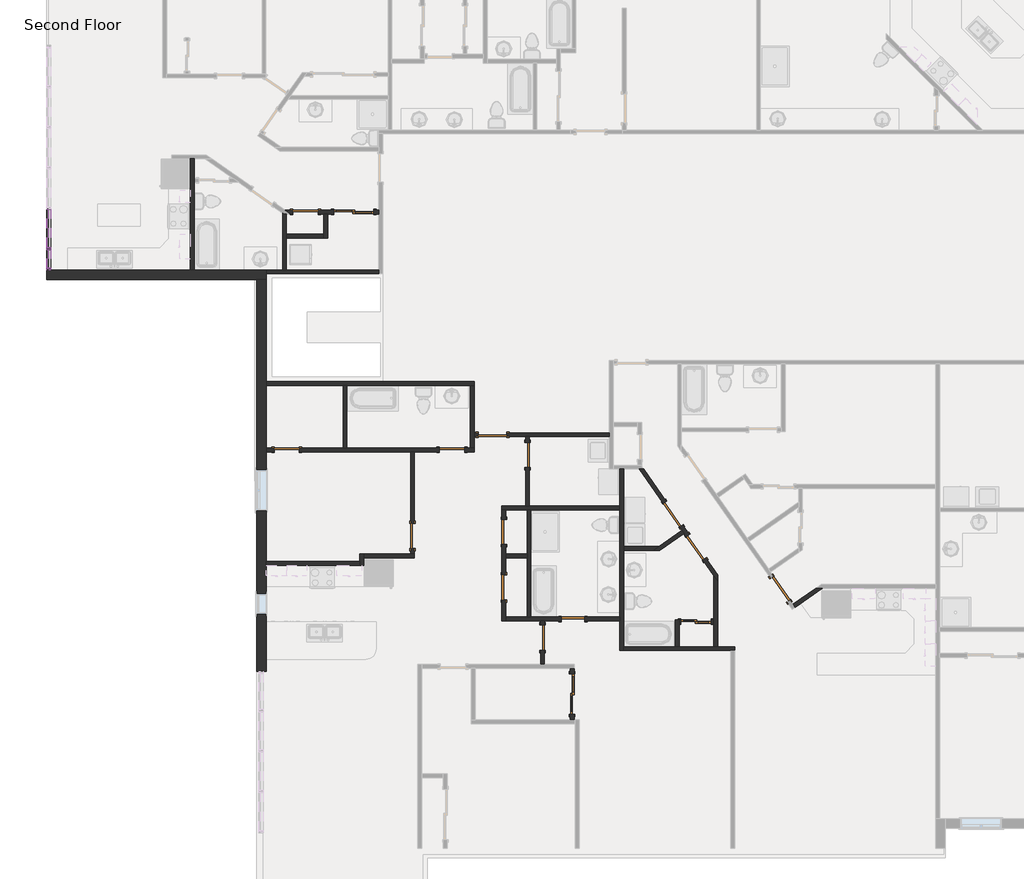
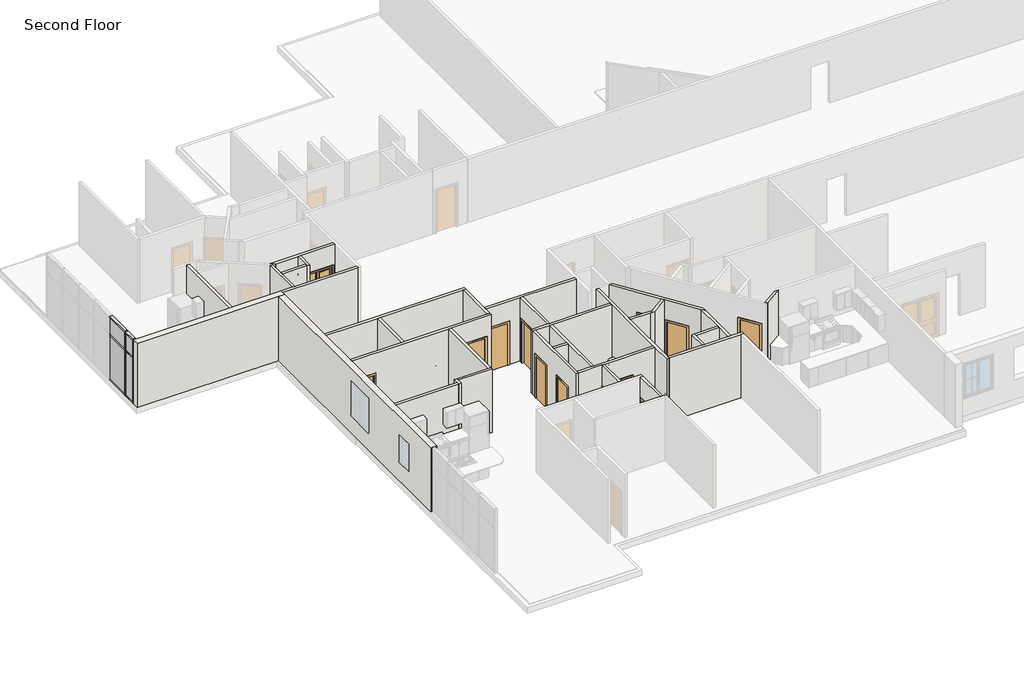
# One storey, part 2 of 17: 34 walls, 16 doors, 10 members, 4 plates.
"""IFC4 building model written with IfcOpenShell, lengths in millimetres."""

from ifc_helpers import new_model, si_unit, frame, origin, place, context, project, spatial, polyline, outline, extrude, faceted_brep, transform, mapped, element, save
from components import door_2d0eeab4, door_d8f5dbb5, door_f2b275c1, door_825b8444, door_c29894e6, door_88c23cd7, door_900f836f, rectangular_mullion_rectangular_mullion_1_fa3625a1, rectangular_mullion_rectangular_mullion_1_7cbf0b94, rectangular_mullion_rectangular_mullion_1_6186cc23, rectangular_mullion_rectangular_mullion_1_049a2e78, rectangular_mullion_rectangular_mullion_1_a50b3cda, rectangular_mullion_rectangular_mullion_1_5cd4c5ac, rectangular_mullion_rectangular_mullion_1_5f94ee87, rectangular_mullion_rectangular_mullion_1_01ab8f87, system_panel_glazed_0ed27d1d, system_panel_glazed_134bacdb, system_panel_glazed_08691960, system_panel_glazed_359e7c1e

model = new_model("IFC4")

# Units and contexts
model_context = context("Model", 3, world=origin())
ifc_project = project(units=[si_unit("LENGTHUNIT", "METRE", prefix="MILLI")], contexts=[model_context])

# Site, building, storey
site = spatial("IfcSite", under=ifc_project)
building = spatial("IfcBuilding", under=site)
storey = spatial("IfcBuildingStorey", under=building, Name="Second Floor", Elevation=3048.0)

# Doors
placement = place(None, origin())
door_shape = door_2d0eeab4(model_context)
element("IfcDoor", 1, ObjectType="Single-Flush : 28\" x 80\"", at=placement, inside=storey, context=model_context, shape_type="MappedRepresentation", body=[
    mapped(door_shape, transform((16422.928371, -12394.3493344, 3048.0), x_axis=(-1.0, 0.0, 0.0), y_axis=(0.0, -1.0, 0.0), z_axis=(0.0, 0.0, 1.0))),
])
door_2_shape = door_d8f5dbb5(model_context)
element("IfcDoor", 2, ObjectType="Single-Flush : 30\" x 80\"", at=placement, inside=storey, context=model_context, shape_type="MappedRepresentation", body=[
    mapped(door_2_shape, transform((12779.9561509, -7293.7212391, 3048.0), x_axis=(1.0, 0.0, 0.0), y_axis=(0.0, 1.0, 0.0), z_axis=(0.0, 0.0, 1.0))),
])
element("IfcDoor", 3, ObjectType="Single-Flush : 30\" x 80\"", at=placement, inside=storey, context=model_context, shape_type="MappedRepresentation", body=[
    mapped(door_2_shape, transform((14339.6754984, -9769.6379528, 3048.0), x_axis=(0.0, 1.0, 0.0), y_axis=(-1.0, 0.0, 0.0), z_axis=(0.0, 0.0, 1.0))),
])
door_3_shape = door_f2b275c1(model_context)
element("IfcDoor", 4, ObjectType="Single-Flush : 30\" x 80\"", at=placement, inside=storey, context=model_context, shape_type="MappedRepresentation", body=[
    mapped(door_3_shape, transform((8359.613642, -116.1297775, 3048.0), x_axis=(-1.0, 0.0, 0.0), y_axis=(0.0, -1.0, 0.0), z_axis=(0.0, 0.0, 1.0))),
])
element("IfcDoor", 5, ObjectType="Single-Flush : 30\" x 80\"", at=placement, inside=storey, context=model_context, shape_type="MappedRepresentation", body=[
    mapped(door_3_shape, transform((15056.22709, -7446.1212391, 3048.0), x_axis=(0.0, 1.0, 0.0), y_axis=(-1.0, 0.0, 0.0), z_axis=(0.0, 0.0, 1.0))),
])
element("IfcDoor", 6, ObjectType="Single-Flush : 30\" x 80\"", at=placement, inside=storey, context=model_context, shape_type="MappedRepresentation", body=[
    mapped(door_3_shape, transform((11582.8058728, -9888.1265712, 3048.0), x_axis=(0.0, -1.0, 0.0), y_axis=(1.0, 0.0, 0.0), z_axis=(0.0, 0.0, 1.0))),
])
element("IfcDoor", 7, ObjectType="Single-Flush : 30\" x 80\"", at=placement, inside=storey, context=model_context, shape_type="MappedRepresentation", body=[
    mapped(door_3_shape, transform((7791.0581159, -7293.7212391, 3048.0), x_axis=(-1.0, 0.0, 0.0), y_axis=(0.0, -1.0, 0.0), z_axis=(0.0, 0.0, 1.0))),
])
element("IfcDoor", 8, ObjectType="Single-Flush : 30\" x 80\"", at=placement, inside=storey, context=model_context, shape_type="MappedRepresentation", body=[
    mapped(door_3_shape, transform((14339.6754984, -11446.0379528, 3048.0), x_axis=(0.0, -1.0, 0.0), y_axis=(1.0, 0.0, 0.0), z_axis=(0.0, 0.0, 1.0))),
])
element("IfcDoor", 9, ObjectType="Single-Flush : 30\" x 80\"", at=placement, inside=storey, context=model_context, shape_type="MappedRepresentation", body=[
    mapped(door_3_shape, transform((15508.528371, -12959.3282576, 3048.0), x_axis=(0.0, 1.0, 0.0), y_axis=(-1.0, 0.0, 0.0), z_axis=(0.0, 0.0, 1.0))),
])
door_4_shape = door_825b8444(model_context)
element("IfcDoor", 10, ObjectType="Single-Flush : 34\" x 80\"", at=placement, inside=storey, context=model_context, shape_type="MappedRepresentation", body=[
    mapped(door_4_shape, transform((19441.5762048, -9236.3622072, 3048.0), x_axis=(0.573576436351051, -0.8191520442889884, 0.0), y_axis=(0.8191520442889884, 0.573576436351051, 0.0), z_axis=(0.0, 0.0, 1.0))),
])
door_5_shape = door_c29894e6(model_context)
element("IfcDoor", 11, ObjectType="Single-Flush : 34\" x 80\"", at=placement, inside=storey, context=model_context, shape_type="MappedRepresentation", body=[
    mapped(door_5_shape, transform((22679.8832205, -11498.1076976, 3048.0), x_axis=(0.5735764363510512, -0.8191520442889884, 0.0), y_axis=(0.8191520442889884, 0.5735764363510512, 0.0), z_axis=(0.0, 0.0, 1.0))),
])
element("IfcDoor", 12, ObjectType="Single-Flush : 34\" x 80\"", at=placement, inside=storey, context=model_context, shape_type="MappedRepresentation", body=[
    mapped(door_5_shape, transform((20140.880596, -10235.0723796, 3048.0), x_axis=(-0.573576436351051, 0.8191520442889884, 0.0), y_axis=(-0.8191520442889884, -0.573576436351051, 0.0), z_axis=(0.0, 0.0, 1.0))),
])
element("IfcDoor", 13, ObjectType="Single-Flush : 34\" x 80\"", at=placement, inside=storey, context=model_context, shape_type="MappedRepresentation", body=[
    mapped(door_5_shape, transform((13999.1561509, -6836.5212391, 3048.0), x_axis=(-1.0, 0.0, 0.0), y_axis=(0.0, -1.0, 0.0), z_axis=(0.0, 0.0, 1.0))),
])
door_6_shape = door_88c23cd7(model_context)
element("IfcDoor", 14, ObjectType="Sliding-Closet : 36\" x 80\"", at=placement, inside=storey, context=model_context, shape_type="MappedRepresentation", body=[
    mapped(door_6_shape, transform((20139.3524328, -12607.5204597, 3048.0), x_axis=(1.0, 0.0, 0.0), y_axis=(0.0, 1.0, 0.0), z_axis=(0.0, 0.0, 1.0))),
])
door_7_shape = door_900f836f(model_context)
element("IfcDoor", 15, ObjectType="Sliding-Closet : 48\" x 80\"", at=placement, inside=storey, context=model_context, shape_type="MappedRepresentation", body=[
    mapped(door_7_shape, transform((9813.633999, -243.1297775, 3048.0), x_axis=(1.0, 0.0, 0.0), y_axis=(0.0, 1.0, 0.0), z_axis=(0.0, 0.0, 1.0))),
])
element("IfcDoor", 16, ObjectType="Sliding-Closet : 48\" x 80\"", at=placement, inside=storey, context=model_context, shape_type="MappedRepresentation", body=[
    mapped(door_7_shape, transform((16274.860372, -14663.3427377, 3048.0), x_axis=(0.0, -1.0, 0.0), y_axis=(1.0, 0.0, 0.0), z_axis=(0.0, 0.0, 1.0))),
])

# Members
rectangular_mullion_rectangular_mullion_1_shape = rectangular_mullion_rectangular_mullion_1_fa3625a1(model_context)
element("IfcMember", 17, ObjectType="Rectangular Mullion : Rectangular Mullion 1", at=placement, inside=storey, context=model_context, shape_type="MappedRepresentation", body=[
    mapped(rectangular_mullion_rectangular_mullion_1_shape, transform((612.3831159, -1182.2572154, 6096.0), x_axis=(0.0, 0.0, 1.0), y_axis=(-1.0, 0.0, 0.0), z_axis=(0.0, -1.0, 0.0))),
])
element("IfcMember", 18, ObjectType="Rectangular Mullion : Rectangular Mullion 1", at=placement, inside=storey, context=model_context, shape_type="MappedRepresentation", body=[
    mapped(rectangular_mullion_rectangular_mullion_1_shape, transform((612.3831159, -26.5572154, 3048.0), x_axis=(0.0, 0.0, -1.0), y_axis=(-1.0, 0.0, 0.0), z_axis=(0.0, 1.0, 0.0))),
])
rectangular_mullion_rectangular_mullion_1_2_shape = rectangular_mullion_rectangular_mullion_1_7cbf0b94(model_context)
element("IfcMember", 19, ObjectType="Rectangular Mullion : Rectangular Mullion 1", at=placement, inside=storey, context=model_context, shape_type="MappedRepresentation", body=[
    mapped(rectangular_mullion_rectangular_mullion_1_2_shape, transform((612.3831159, -1182.2572154, 5213.35), x_axis=(0.0, 0.0, 1.0), y_axis=(-1.0, 0.0, 0.0), z_axis=(0.0, -1.0, 0.0))),
])
rectangular_mullion_rectangular_mullion_1_3_shape = rectangular_mullion_rectangular_mullion_1_6186cc23(model_context)
element("IfcMember", 20, ObjectType="Rectangular Mullion : Rectangular Mullion 1", at=placement, inside=storey, context=model_context, shape_type="MappedRepresentation", body=[
    mapped(rectangular_mullion_rectangular_mullion_1_3_shape, transform((612.3831159, -1214.0072154, 3048.0), x_axis=(0.0, -1.0, 0.0), y_axis=(-1.0, 0.0, 0.0), z_axis=(0.0, 0.0, -1.0))),
])
rectangular_mullion_rectangular_mullion_1_4_shape = rectangular_mullion_rectangular_mullion_1_049a2e78(model_context)
element("IfcMember", 21, ObjectType="Rectangular Mullion : Rectangular Mullion 1", at=placement, inside=storey, context=model_context, shape_type="MappedRepresentation", body=[
    mapped(rectangular_mullion_rectangular_mullion_1_4_shape, transform((612.3831159, -1214.0072154, 5213.35), x_axis=(0.0, -1.0, 0.0), y_axis=(-1.0, 0.0, 0.0), z_axis=(0.0, 0.0, -1.0))),
])
rectangular_mullion_rectangular_mullion_1_5_shape = rectangular_mullion_rectangular_mullion_1_a50b3cda(model_context)
element("IfcMember", 22, ObjectType="Rectangular Mullion : Rectangular Mullion 1", at=placement, inside=storey, context=model_context, shape_type="MappedRepresentation", body=[
    mapped(rectangular_mullion_rectangular_mullion_1_5_shape, transform((612.3831159, -1864.031369, 3048.0), x_axis=(0.0, -1.0, 0.0), y_axis=(-1.0, 0.0, 0.0), z_axis=(0.0, 0.0, -1.0))),
])
rectangular_mullion_rectangular_mullion_1_6_shape = rectangular_mullion_rectangular_mullion_1_5cd4c5ac(model_context)
element("IfcMember", 23, ObjectType="Rectangular Mullion : Rectangular Mullion 1", at=placement, inside=storey, context=model_context, shape_type="MappedRepresentation", body=[
    mapped(rectangular_mullion_rectangular_mullion_1_6_shape, transform((612.3831159, -1864.031369, 5213.35), x_axis=(0.0, -1.0, 0.0), y_axis=(-1.0, 0.0, 0.0), z_axis=(0.0, 0.0, -1.0))),
])
rectangular_mullion_rectangular_mullion_1_7_shape = rectangular_mullion_rectangular_mullion_1_5f94ee87(model_context)
element("IfcMember", 24, ObjectType="Rectangular Mullion : Rectangular Mullion 1", at=placement, inside=storey, context=model_context, shape_type="MappedRepresentation", body=[
    mapped(rectangular_mullion_rectangular_mullion_1_7_shape, transform((612.3831159, -1800.531369, 6096.0), x_axis=(0.0, 0.0, 1.0), y_axis=(-1.0, 0.0, 0.0), z_axis=(0.0, -1.0, 0.0))),
])
element("IfcMember", 25, ObjectType="Rectangular Mullion : Rectangular Mullion 1", at=placement, inside=storey, context=model_context, shape_type="MappedRepresentation", body=[
    mapped(rectangular_mullion_rectangular_mullion_1_7_shape, transform((612.3831159, -1245.7572154, 3048.0), x_axis=(0.0, 0.0, -1.0), y_axis=(-1.0, 0.0, 0.0), z_axis=(0.0, 1.0, 0.0))),
])
rectangular_mullion_rectangular_mullion_1_8_shape = rectangular_mullion_rectangular_mullion_1_01ab8f87(model_context)
element("IfcMember", 26, ObjectType="Rectangular Mullion : Rectangular Mullion 1", at=placement, inside=storey, context=model_context, shape_type="MappedRepresentation", body=[
    mapped(rectangular_mullion_rectangular_mullion_1_8_shape, transform((612.3831159, -1800.531369, 5213.35), x_axis=(0.0, 0.0, 1.0), y_axis=(-1.0, 0.0, 0.0), z_axis=(0.0, -1.0, 0.0))),
])

# Plates
system_panel_glazed_shape = system_panel_glazed_0ed27d1d(model_context)
element("IfcPlate", 27, ObjectType="System Panel : Glazed", at=placement, inside=storey, context=model_context, shape_type="MappedRepresentation", body=[
    mapped(system_panel_glazed_shape, transform((612.3831159, -604.4072154, 3111.5), x_axis=(0.0, -1.0, 0.0), y_axis=(1.0, 0.0, 0.0), z_axis=(0.0, 0.0, 1.0))),
])
system_panel_glazed_2_shape = system_panel_glazed_134bacdb(model_context)
element("IfcPlate", 28, ObjectType="System Panel : Glazed", at=placement, inside=storey, context=model_context, shape_type="MappedRepresentation", body=[
    mapped(system_panel_glazed_2_shape, transform((612.3831159, -604.4072154, 5245.1), x_axis=(0.0, -1.0, 0.0), y_axis=(1.0, 0.0, 0.0), z_axis=(0.0, 0.0, 1.0))),
])
system_panel_glazed_3_shape = system_panel_glazed_08691960(model_context)
element("IfcPlate", 29, ObjectType="System Panel : Glazed", at=placement, inside=storey, context=model_context, shape_type="MappedRepresentation", body=[
    mapped(system_panel_glazed_3_shape, transform((612.3831159, -1523.1442922, 3111.5), x_axis=(0.0, -1.0, 0.0), y_axis=(1.0, 0.0, 0.0), z_axis=(0.0, 0.0, 1.0))),
])
system_panel_glazed_4_shape = system_panel_glazed_359e7c1e(model_context)
element("IfcPlate", 30, ObjectType="System Panel : Glazed", at=placement, inside=storey, context=model_context, shape_type="MappedRepresentation", body=[
    mapped(system_panel_glazed_4_shape, transform((612.3831159, -1523.1442922, 5245.1), x_axis=(0.0, -1.0, 0.0), y_axis=(1.0, 0.0, 0.0), z_axis=(0.0, 0.0, 1.0))),
])

# Walls
element("IfcWall", 31, ObjectType="Exterior - Brick on Wood Stud", at=placement, inside=storey, context=model_context, shape_type="Brep", body=[
    faceted_brep([(7170.3456159, -13981.3871067, 3048.0), (7170.3456159, -10775.0993344, 3048.0), (7170.3456159, -10660.7993344, 3048.0), (7170.3456159, -7350.8712391, 3048.0), (7170.3456159, -7236.5712391, 3048.0), (7170.3456159, -5351.7371067, 3048.0), (7170.3456159, -5237.4371067, 3048.0), (7170.3456159, -2146.606369, 3048.0), (7170.3456159, -2146.606369, 6096.0), (7170.3456159, -5237.4371067, 6096.0), (7170.3456159, -5351.7371067, 6096.0), (7170.3456159, -7236.5712391, 6096.0), (7170.3456159, -7350.8712391, 6096.0), (7170.3456159, -10660.7993344, 6096.0), (7170.3456159, -10775.0993344, 6096.0), (7170.3456159, -13981.3871067, 6096.0), (7170.3456159, -7903.3212391, 5486.4), (7170.3456159, -7903.3212391, 3962.4), (7170.3456159, -9122.5212391, 3962.4), (7170.3456159, -9122.5212391, 5486.4), (7170.3456159, -11632.3493344, 5181.6), (7170.3456159, -11632.3493344, 3962.4), (7170.3456159, -12241.9493344, 3962.4), (7170.3456159, -12241.9493344, 5181.6), (6887.7706159, -13981.3871067, 3048.0), (6887.7706159, -13981.3871067, 6096.0), (6887.7706159, -2146.606369, 6096.0), (6887.7706159, -2146.606369, 3048.0), (6887.7706159, -7903.3212391, 5486.4), (6887.7706159, -9122.5212391, 5486.4), (6887.7706159, -9122.5212391, 3962.4), (6887.7706159, -7903.3212391, 3962.4), (6887.7706159, -11632.3493344, 5181.6), (6887.7706159, -12241.9493344, 5181.6), (6887.7706159, -12241.9493344, 3962.4), (6887.7706159, -11632.3493344, 3962.4)], [[[0, 1, 2, 3, 4, 5, 6, 7, 8, 9, 10, 11, 12, 13, 14, 15], [16, 17, 18, 19], [20, 21, 22, 23]], [[24, 25, 26, 27], [28, 29, 30, 31], [32, 33, 34, 35]], [[7, 6, 5, 4, 3, 2, 1, 0, 24, 27]], [[15, 14, 13, 12, 11, 10, 9, 8, 26, 25]], [[0, 15, 25, 24]], [[17, 16, 28, 31]], [[18, 17, 31, 30]], [[19, 18, 30, 29]], [[16, 19, 29, 28]], [[21, 20, 32, 35]], [[22, 21, 35, 34]], [[23, 22, 34, 33]], [[20, 23, 33, 32]], [[8, 7, 27, 26]]]),
])
element("IfcWall", 32, ObjectType="Exterior - Brick on Wood Stud", at=placement, inside=storey, context=model_context, shape_type="Brep", body=[
    faceted_brep([(548.8831159, -2146.606369, 3048.0), (6887.7706159, -2146.606369, 3048.0), (7170.3456159, -2146.606369, 3048.0), (7170.3456159, -2146.606369, 6096.0), (6887.7706159, -2146.606369, 6096.0), (548.8831159, -2146.606369, 6096.0), (548.8831159, -1864.031369, 3048.0), (548.8831159, -1864.031369, 6096.0), (4880.7003923, -1864.031369, 6096.0), (4995.0003923, -1864.031369, 6096.0), (7170.3456159, -1864.031369, 6096.0), (7170.3456159, -1864.031369, 3048.0), (4995.0003923, -1864.031369, 3048.0), (4880.7003923, -1864.031369, 3048.0), (7170.3456159, -1978.331369, 3048.0), (7170.3456159, -1978.331369, 6096.0)], [[[0, 1, 2, 3, 4, 5]], [[6, 7, 8, 9, 10, 11, 12, 13]], [[2, 1, 0, 6, 13, 12, 11, 14]], [[5, 4, 3, 15, 10, 9, 8, 7]], [[0, 5, 7, 6]], [[3, 2, 14, 11, 10, 15]]]),
])
element("IfcWall", 33, ObjectType="Interior - 4 1/2\" Partition", at=placement, inside=storey, context=model_context, shape_type="Brep", body=[
    faceted_brep([(4995.0003923, -1864.031369, 3048.0), (4995.0003923, 782.2685137, 3048.0), (4995.0003923, 896.5685137, 3048.0), (4995.0003923, 1493.4685137, 3048.0), (4995.0003923, 1493.4685137, 6096.0), (4995.0003923, 896.5685137, 6096.0), (4995.0003923, 782.2685137, 6096.0), (4995.0003923, -1864.031369, 6096.0), (4880.7003923, -1864.031369, 3048.0), (4880.7003923, -1864.031369, 6096.0), (4880.7003923, 1493.4685137, 6096.0), (4880.7003923, 1493.4685137, 3048.0)], [[[0, 1, 2, 3, 4, 5, 6, 7]], [[8, 9, 10, 11]], [[3, 2, 1, 0, 8, 11]], [[7, 6, 5, 4, 10, 9]], [[0, 7, 9, 8]], [[4, 3, 11, 10]]]),
])
element("IfcWall", 34, ObjectType="Interior - 4 1/2\" Partition", at=placement, inside=storey, context=model_context, shape_type="Brep", body=[
    faceted_brep([(10569.283999, -173.2797775, 6096.0), (9026.363642, -173.2797775, 6096.0), (8912.063642, -173.2797775, 6096.0), (7905.870285, -173.2797775, 6096.0), (7905.870285, -173.2797775, 3048.0), (7978.613642, -173.2797775, 3048.0), (7978.613642, -173.2797775, 5080.0), (8740.613642, -173.2797775, 5080.0), (8740.613642, -173.2797775, 3048.0), (8912.063642, -173.2797775, 3048.0), (9026.363642, -173.2797775, 3048.0), (9204.033999, -173.2797775, 3048.0), (9204.033999, -173.2797775, 5080.0), (10423.233999, -173.2797775, 5080.0), (10423.233999, -173.2797775, 3048.0), (10569.283999, -173.2797775, 3048.0), (7742.6329678, -58.9797775, 6096.0), (10569.283999, -58.9797775, 6096.0), (10569.283999, -58.9797775, 3048.0), (10423.233999, -58.9797775, 3048.0), (10423.233999, -58.9797775, 5080.0), (9204.033999, -58.9797775, 5080.0), (9204.033999, -58.9797775, 3048.0), (8740.613642, -58.9797775, 3048.0), (8740.613642, -58.9797775, 5080.0), (7978.613642, -58.9797775, 5080.0), (7978.613642, -58.9797775, 3048.0), (7742.6329678, -58.9797775, 3048.0)], [[[0, 1, 2, 3, 4, 5, 6, 7, 8, 9, 10, 11, 12, 13, 14, 15]], [[16, 17, 18, 19, 20, 21, 22, 23, 24, 25, 26, 27]], [[26, 5, 4, 27]], [[8, 23, 22, 11, 10, 9]], [[18, 15, 14, 19]], [[3, 2, 1, 0, 17, 16]], [[6, 5, 26, 25]], [[7, 6, 25, 24]], [[8, 7, 24, 23]], [[21, 12, 11, 22]], [[12, 21, 20, 13]], [[13, 20, 19, 14]], [[4, 3, 16, 27]], [[0, 15, 18, 17]]]),
])
element("IfcWall", 35, ObjectType="Interior - 4 1/2\" Partition", at=placement, inside=storey, context=model_context, shape_type="Brep", body=[
    faceted_brep([(7667.463642, -145.8801844, 3048.0), (7667.463642, -1864.031369, 3048.0), (7667.463642, -1864.031369, 6096.0), (7667.463642, -145.8801844, 6096.0), (7781.763642, -173.2797775, 3048.0), (7781.763642, -173.2797775, 6096.0), (7781.763642, -783.946226, 6096.0), (7781.763642, -898.246226, 6096.0), (7781.763642, -1864.031369, 6096.0), (7781.763642, -1864.031369, 3048.0), (7781.763642, -898.246226, 3048.0), (7781.763642, -783.946226, 3048.0), (7706.5943163, -173.2797775, 3048.0), (7706.5943163, -173.2797775, 6096.0)], [[[0, 1, 2, 3]], [[4, 5, 6, 7, 8, 9, 10, 11]], [[1, 0, 12, 4, 11, 10, 9]], [[3, 2, 8, 7, 6, 5, 13]], [[2, 1, 9, 8]], [[0, 3, 13, 12]], [[13, 5, 4, 12]]]),
])
element("IfcWall", 36, ObjectType="Interior - 4 1/2\" Partition", at=placement, inside=storey, context=model_context, shape_type="Brep", body=[
    faceted_brep([(8912.063642, -173.2797775, 3048.0), (8912.063642, -783.946226, 3048.0), (8912.063642, -898.246226, 3048.0), (8912.063642, -898.246226, 6096.0), (8912.063642, -783.946226, 6096.0), (8912.063642, -173.2797775, 6096.0), (9026.363642, -173.2797775, 3048.0), (9026.363642, -173.2797775, 6096.0), (9026.363642, -898.246226, 6096.0), (9026.363642, -898.246226, 3048.0)], [[[0, 1, 2, 3, 4, 5]], [[6, 7, 8, 9]], [[2, 1, 0, 6, 9]], [[5, 4, 3, 8, 7]], [[3, 2, 9, 8]], [[0, 5, 7, 6]]]),
])
element("IfcWall", 37, ObjectType="Interior - 4 1/2\" Partition", at=placement, inside=storey, context=model_context, shape_type="SweptSolid", body=[
    extrude(outline(polyline([(7781.763642, -783.946226), (8912.063642, -783.946226), (8912.063642, -898.246226), (7781.763642, -898.246226), (7781.763642, -783.946226)])), frame((0.0, 0.0, 3048.0), z_axis=(0.0, 0.0, 1.0), x_axis=(1.0, 0.0, 0.0)), (0.0, 0.0, 1.0), 3048.0),
])
element("IfcWall", 38, ObjectType="Interior - 4 1/2\" Partition", at=placement, inside=storey, context=model_context, shape_type="Brep", body=[
    faceted_brep([(7170.3456159, -5351.7371067, 3048.0), (9494.3397027, -5351.7371067, 3048.0), (9608.6397027, -5351.7371067, 3048.0), (13332.4061509, -5351.7371067, 3048.0), (13446.7061509, -5351.7371067, 3048.0), (13446.7061509, -5351.7371067, 6096.0), (13332.4061509, -5351.7371067, 6096.0), (9608.6397027, -5351.7371067, 6096.0), (9494.3397027, -5351.7371067, 6096.0), (7170.3456159, -5351.7371067, 6096.0), (7170.3456159, -5237.4371067, 3048.0), (7170.3456159, -5237.4371067, 6096.0), (13446.7061509, -5237.4371067, 6096.0), (13446.7061509, -5237.4371067, 3048.0)], [[[0, 1, 2, 3, 4, 5, 6, 7, 8, 9]], [[10, 11, 12, 13]], [[4, 3, 2, 1, 0, 10, 13]], [[9, 8, 7, 6, 5, 12, 11]], [[5, 4, 13, 12]], [[0, 9, 11, 10]]]),
])
element("IfcWall", 39, ObjectType="Interior - 4 1/2\" Partition", at=placement, inside=storey, context=model_context, shape_type="Brep", body=[
    faceted_brep([(13332.4061509, -5351.7371067, 3048.0), (13332.4061509, -7236.5712391, 3048.0), (13332.4061509, -7236.5712391, 6096.0), (13332.4061509, -5351.7371067, 6096.0), (13446.7061509, -5351.7371067, 3048.0), (13446.7061509, -5351.7371067, 6096.0), (13446.7061509, -6779.3712391, 6096.0), (13446.7061509, -6893.6712391, 6096.0), (13446.7061509, -7236.5712391, 6096.0), (13446.7061509, -7236.5712391, 3048.0), (13446.7061509, -6893.6712391, 3048.0), (13446.7061509, -6779.3712391, 3048.0)], [[[0, 1, 2, 3]], [[4, 5, 6, 7, 8, 9, 10, 11]], [[1, 0, 4, 11, 10, 9]], [[3, 2, 8, 7, 6, 5]], [[2, 1, 9, 8]], [[0, 3, 5, 4]]]),
])
element("IfcWall", 40, ObjectType="Interior - 4 1/2\" Partition", at=placement, inside=storey, context=model_context, shape_type="Brep", body=[
    faceted_brep([(13446.7061509, -6893.6712391, 3048.0), (13567.3561509, -6893.6712391, 3048.0), (13567.3561509, -6893.6712391, 5080.0), (14430.9561509, -6893.6712391, 5080.0), (14430.9561509, -6893.6712391, 3048.0), (14999.07709, -6893.6712391, 3048.0), (15113.37709, -6893.6712391, 3048.0), (17521.3916991, -6893.6712391, 3048.0), (17521.3916991, -6893.6712391, 6096.0), (15113.37709, -6893.6712391, 6096.0), (14999.07709, -6893.6712391, 6096.0), (13446.7061509, -6893.6712391, 6096.0), (13567.3561509, -6779.3712391, 5080.0), (13567.3561509, -6779.3712391, 3048.0), (13446.7061509, -6779.3712391, 3048.0), (13446.7061509, -6779.3712391, 6096.0), (17521.3916991, -6779.3712391, 6096.0), (17521.3916991, -6779.3712391, 3048.0), (14430.9561509, -6779.3712391, 3048.0), (14430.9561509, -6779.3712391, 5080.0)], [[[0, 1, 2, 3, 4, 5, 6, 7, 8, 9, 10, 11]], [[12, 13, 14, 15, 16, 17, 18, 19]], [[18, 17, 7, 6, 5, 4]], [[14, 13, 1, 0]], [[11, 10, 9, 8, 16, 15]], [[2, 1, 13, 12]], [[3, 2, 12, 19]], [[4, 3, 19, 18]], [[8, 7, 17, 16]], [[0, 11, 15, 14]]]),
])
element("IfcWall", 41, ObjectType="Interior - 4 1/2\" Partition", at=placement, inside=storey, context=model_context, shape_type="Brep", body=[
    faceted_brep([(17837.7191338, -7873.4719726, 3048.0), (17837.7191338, -8984.3993344, 3048.0), (17837.7191338, -9098.6993344, 3048.0), (17837.7191338, -12337.1993344, 3048.0), (17837.7191338, -12451.4993344, 3048.0), (17837.7191338, -13350.4704597, 3048.0), (17837.7191338, -13350.4704597, 6096.0), (17837.7191338, -12451.4993344, 6096.0), (17837.7191338, -12337.1993344, 6096.0), (17837.7191338, -9098.6993344, 6096.0), (17837.7191338, -8984.3993344, 6096.0), (17837.7191338, -7873.4719726, 6096.0), (17952.0191338, -7873.4719726, 3048.0), (17952.0191338, -7873.4719726, 6096.0), (17952.0191338, -10214.0460393, 6096.0), (17952.0191338, -10328.3460393, 6096.0), (17952.0191338, -13236.1704597, 6096.0), (17952.0191338, -13350.4704597, 6096.0), (17952.0191338, -13350.4704597, 3048.0), (17952.0191338, -13236.1704597, 3048.0), (17952.0191338, -10328.3460393, 3048.0), (17952.0191338, -10214.0460393, 3048.0)], [[[0, 1, 2, 3, 4, 5, 6, 7, 8, 9, 10, 11]], [[12, 13, 14, 15, 16, 17, 18, 19, 20, 21]], [[5, 4, 3, 2, 1, 0, 12, 21, 20, 19, 18]], [[11, 10, 9, 8, 7, 6, 17, 16, 15, 14, 13]], [[6, 5, 18, 17]], [[0, 11, 13, 12]]]),
])
element("IfcWall", 42, ObjectType="Interior - 4 1/2\" Partition", at=placement, inside=storey, context=model_context, shape_type="Brep", body=[
    faceted_brep([(17952.0191338, -13350.4704597, 3048.0), (21185.6615862, -13350.4704597, 3048.0), (21299.9615862, -13350.4704597, 3048.0), (21299.9615862, -13350.4704597, 6096.0), (21185.6615862, -13350.4704597, 6096.0), (17952.0191338, -13350.4704597, 6096.0), (17952.0191338, -13236.1704597, 3048.0), (17952.0191338, -13236.1704597, 6096.0), (19511.69036, -13236.1704597, 6096.0), (19625.99036, -13236.1704597, 6096.0), (20678.1145056, -13236.1704597, 6096.0), (20792.4145056, -13236.1704597, 6096.0), (21299.9615862, -13236.1704597, 6096.0), (21299.9615862, -13236.1704597, 3048.0), (20792.4145056, -13236.1704597, 3048.0), (20678.1145056, -13236.1704597, 3048.0), (19625.99036, -13236.1704597, 3048.0), (19511.69036, -13236.1704597, 3048.0)], [[[0, 1, 2, 3, 4, 5]], [[6, 7, 8, 9, 10, 11, 12, 13, 14, 15, 16, 17]], [[2, 1, 0, 6, 17, 16, 15, 14, 13]], [[5, 4, 3, 12, 11, 10, 9, 8, 7]], [[3, 2, 13, 12]], [[0, 5, 7, 6]]]),
])
element("IfcWall", 43, ObjectType="Interior - 4 1/2\" Partition", at=placement, inside=storey, context=model_context, shape_type="SweptSolid", body=[
    extrude(outline(polyline([(-15272.9427377, 5080.0), (-15272.9427377, 3048.0), (-15440.4282946, 3048.0), (-15440.4282946, 6096.0), (-13886.2571807, 6096.0), (-13886.2571807, 3048.0), (-14053.7427377, 3048.0), (-14053.7427377, 5080.0), (-15272.9427377, 5080.0)])), frame((16344.710372, 0.0, 0.0), z_axis=(1.0, 0.0, 0.0), x_axis=(0.0, 1.0, 0.0)), (0.0, 0.0, 1.0), 114.3),
])
element("IfcWall", 44, ObjectType="Interior - 4 1/2\" Partition", at=placement, inside=storey, context=model_context, shape_type="Brep", body=[
    faceted_brep([(17837.7191338, -8984.3993344, 3048.0), (15113.37709, -8984.3993344, 3048.0), (14999.07709, -8984.3993344, 3048.0), (14282.5254984, -8984.3993344, 3048.0), (14282.5254984, -8984.3993344, 6096.0), (14999.07709, -8984.3993344, 6096.0), (15113.37709, -8984.3993344, 6096.0), (17837.7191338, -8984.3993344, 6096.0), (17837.7191338, -9098.6993344, 3048.0), (17837.7191338, -9098.6993344, 6096.0), (15157.82709, -9098.6993344, 6096.0), (15043.52709, -9098.6993344, 6096.0), (14396.8254984, -9098.6993344, 6096.0), (14282.5254984, -9098.6993344, 6096.0), (14282.5254984, -9098.6993344, 3048.0), (14396.8254984, -9098.6993344, 3048.0), (15043.52709, -9098.6993344, 3048.0), (15157.82709, -9098.6993344, 3048.0)], [[[0, 1, 2, 3, 4, 5, 6, 7]], [[8, 9, 10, 11, 12, 13, 14, 15, 16, 17]], [[3, 2, 1, 0, 8, 17, 16, 15, 14]], [[7, 6, 5, 4, 13, 12, 11, 10, 9]], [[4, 3, 14, 13]], [[0, 7, 9, 8]]]),
])
element("IfcWall", 45, ObjectType="Interior - 4 1/2\" Partition", at=placement, inside=storey, context=model_context, shape_type="SweptSolid", body=[
    extrude(outline(polyline([(-6893.6712391, 3048.0), (-7065.1212391, 3048.0), (-7065.1212391, 5080.0), (-7827.1212391, 5080.0), (-7827.1212391, 3048.0), (-8984.3993344, 3048.0), (-8984.3993344, 6096.0), (-6893.6712391, 6096.0), (-6893.6712391, 3048.0)])), frame((14999.07709, 0.0, 0.0), z_axis=(1.0, 0.0, 0.0), x_axis=(0.0, 1.0, 0.0)), (0.0, 0.0, 1.0), 114.3),
])
element("IfcWall", 46, ObjectType="Interior - 4 1/2\" Partition", at=placement, inside=storey, context=model_context, shape_type="Brep", body=[
    faceted_brep([(14282.5254984, -11827.0379528, 5080.0), (14282.5254984, -11827.0379528, 3048.0), (14282.5254984, -12451.4993344, 3048.0), (14282.5254984, -12451.4993344, 6096.0), (14282.5254984, -9098.6993344, 6096.0), (14282.5254984, -9098.6993344, 3048.0), (14282.5254984, -9388.6379528, 3048.0), (14282.5254984, -9388.6379528, 5080.0), (14282.5254984, -10150.6379528, 5080.0), (14282.5254984, -10150.6379528, 3048.0), (14282.5254984, -11065.0379528, 3048.0), (14282.5254984, -11065.0379528, 5080.0), (14396.8254984, -12451.4993344, 3048.0), (14396.8254984, -12337.1993344, 3048.0), (14396.8254984, -11827.0379528, 3048.0), (14396.8254984, -11827.0379528, 5080.0), (14396.8254984, -11065.0379528, 5080.0), (14396.8254984, -11065.0379528, 3048.0), (14396.8254984, -10554.8765712, 3048.0), (14396.8254984, -10440.5765712, 3048.0), (14396.8254984, -10150.6379528, 3048.0), (14396.8254984, -10150.6379528, 5080.0), (14396.8254984, -9388.6379528, 5080.0), (14396.8254984, -9388.6379528, 3048.0), (14396.8254984, -9098.6993344, 3048.0), (14396.8254984, -9098.6993344, 6096.0), (14396.8254984, -10440.5765712, 6096.0), (14396.8254984, -10554.8765712, 6096.0), (14396.8254984, -12337.1993344, 6096.0), (14396.8254984, -12451.4993344, 6096.0)], [[[0, 1, 2, 3, 4, 5, 6, 7, 8, 9, 10, 11]], [[12, 13, 14, 15, 16, 17, 18, 19, 20, 21, 22, 23, 24, 25, 26, 27, 28, 29]], [[24, 23, 6, 5]], [[10, 9, 20, 19, 18, 17]], [[2, 1, 14, 13, 12]], [[4, 3, 29, 28, 27, 26, 25]], [[7, 6, 23, 22]], [[8, 7, 22, 21]], [[9, 8, 21, 20]], [[15, 14, 1, 0]], [[16, 15, 0, 11]], [[17, 16, 11, 10]], [[3, 2, 12, 29]], [[5, 4, 25, 24]]]),
])
element("IfcWall", 47, ObjectType="Interior - 4 1/2\" Partition", at=placement, inside=storey, context=model_context, shape_type="Brep", body=[
    faceted_brep([(14396.8254984, -12451.4993344, 3048.0), (15451.378371, -12451.4993344, 3048.0), (15565.678371, -12451.4993344, 3048.0), (16067.328371, -12451.4993344, 3048.0), (16067.328371, -12451.4993344, 5080.0), (16778.528371, -12451.4993344, 5080.0), (16778.528371, -12451.4993344, 3048.0), (17837.7191338, -12451.4993344, 3048.0), (17837.7191338, -12451.4993344, 6096.0), (15565.678371, -12451.4993344, 6096.0), (15451.378371, -12451.4993344, 6096.0), (14396.8254984, -12451.4993344, 6096.0), (16067.328371, -12337.1993344, 5080.0), (16067.328371, -12337.1993344, 3048.0), (15157.82709, -12337.1993344, 3048.0), (15043.52709, -12337.1993344, 3048.0), (14396.8254984, -12337.1993344, 3048.0), (14396.8254984, -12337.1993344, 6096.0), (15043.52709, -12337.1993344, 6096.0), (15157.82709, -12337.1993344, 6096.0), (17837.7191338, -12337.1993344, 6096.0), (17837.7191338, -12337.1993344, 3048.0), (16778.528371, -12337.1993344, 3048.0), (16778.528371, -12337.1993344, 5080.0)], [[[0, 1, 2, 3, 4, 5, 6, 7, 8, 9, 10, 11]], [[12, 13, 14, 15, 16, 17, 18, 19, 20, 21, 22, 23]], [[22, 21, 7, 6]], [[16, 15, 14, 13, 3, 2, 1, 0]], [[11, 10, 9, 8, 20, 19, 18, 17]], [[4, 3, 13, 12]], [[5, 4, 12, 23]], [[6, 5, 23, 22]], [[0, 11, 17, 16]], [[8, 7, 21, 20]]]),
])
element("IfcWall", 48, ObjectType="Interior - 4 1/2\" Partition", at=placement, inside=storey, context=model_context, shape_type="Brep", body=[
    faceted_brep([(15043.52709, -9098.6993344, 3048.0), (15043.52709, -10440.5765712, 3048.0), (15043.52709, -10554.8765712, 3048.0), (15043.52709, -12337.1993344, 3048.0), (15043.52709, -12337.1993344, 6096.0), (15043.52709, -10554.8765712, 6096.0), (15043.52709, -10440.5765712, 6096.0), (15043.52709, -9098.6993344, 6096.0), (15157.82709, -9098.6993344, 3048.0), (15157.82709, -9098.6993344, 6096.0), (15157.82709, -12337.1993344, 6096.0), (15157.82709, -12337.1993344, 3048.0)], [[[0, 1, 2, 3, 4, 5, 6, 7]], [[8, 9, 10, 11]], [[3, 2, 1, 0, 8, 11]], [[7, 6, 5, 4, 10, 9]], [[4, 3, 11, 10]], [[0, 7, 9, 8]]]),
])
element("IfcWall", 49, ObjectType="Interior - 4 1/2\" Partition", at=placement, inside=storey, context=model_context, shape_type="Brep", body=[
    faceted_brep([(7170.3456159, -7350.8712391, 3048.0), (7410.0581159, -7350.8712391, 3048.0), (7410.0581159, -7350.8712391, 5080.0), (8172.0581159, -7350.8712391, 5080.0), (8172.0581159, -7350.8712391, 3048.0), (11525.6558728, -7350.8712391, 3048.0), (11639.9558728, -7350.8712391, 3048.0), (12398.9561509, -7350.8712391, 3048.0), (12398.9561509, -7350.8712391, 5080.0), (13160.9561509, -7350.8712391, 5080.0), (13160.9561509, -7350.8712391, 3048.0), (13446.7061509, -7350.8712391, 3048.0), (13446.7061509, -7350.8712391, 6096.0), (11639.9558728, -7350.8712391, 6096.0), (11525.6558728, -7350.8712391, 6096.0), (7170.3456159, -7350.8712391, 6096.0), (7410.0581159, -7236.5712391, 5080.0), (7410.0581159, -7236.5712391, 3048.0), (7170.3456159, -7236.5712391, 3048.0), (7170.3456159, -7236.5712391, 6096.0), (9494.3397027, -7236.5712391, 6096.0), (9608.6397027, -7236.5712391, 6096.0), (13332.4061509, -7236.5712391, 6096.0), (13446.7061509, -7236.5712391, 6096.0), (13446.7061509, -7236.5712391, 3048.0), (13332.4061509, -7236.5712391, 3048.0), (13160.9561509, -7236.5712391, 3048.0), (13160.9561509, -7236.5712391, 5080.0), (12398.9561509, -7236.5712391, 5080.0), (12398.9561509, -7236.5712391, 3048.0), (9608.6397027, -7236.5712391, 3048.0), (9494.3397027, -7236.5712391, 3048.0), (8172.0581159, -7236.5712391, 3048.0), (8172.0581159, -7236.5712391, 5080.0)], [[[0, 1, 2, 3, 4, 5, 6, 7, 8, 9, 10, 11, 12, 13, 14, 15]], [[16, 17, 18, 19, 20, 21, 22, 23, 24, 25, 26, 27, 28, 29, 30, 31, 32, 33]], [[11, 10, 26, 25, 24]], [[18, 17, 1, 0]], [[32, 31, 30, 29, 7, 6, 5, 4]], [[15, 14, 13, 12, 23, 22, 21, 20, 19]], [[27, 26, 10, 9]], [[28, 27, 9, 8]], [[29, 28, 8, 7]], [[2, 1, 17, 16]], [[3, 2, 16, 33]], [[4, 3, 33, 32]], [[12, 11, 24, 23]], [[0, 15, 19, 18]]]),
])
element("IfcWall", 50, ObjectType="Interior - 4 1/2\" Partition", at=placement, inside=storey, context=model_context, shape_type="SweptSolid", body=[
    extrude(outline(polyline([(9608.6397027, -5351.7371067), (9608.6397027, -7236.5712391), (9494.3397027, -7236.5712391), (9494.3397027, -5351.7371067), (9608.6397027, -5351.7371067)])), frame((0.0, 0.0, 3048.0), z_axis=(0.0, 0.0, 1.0), x_axis=(1.0, 0.0, 0.0)), (0.0, 0.0, 1.0), 3048.0),
])
element("IfcWall", 51, ObjectType="Interior - 4 1/2\" Partition", at=placement, inside=storey, context=model_context, shape_type="SweptSolid", body=[
    extrude(outline(polyline([(10001.6558728, -10775.0993344), (7170.3456159, -10775.0993344), (7170.3456159, -10660.7993344), (10001.6558728, -10660.7993344), (10001.6558728, -10775.0993344)])), frame((0.0, 0.0, 3048.0), z_axis=(0.0, 0.0, 1.0), x_axis=(1.0, 0.0, 0.0)), (0.0, 0.0, 1.0), 3048.0),
])
element("IfcWall", 52, ObjectType="Interior - 4 1/2\" Partition", at=placement, inside=storey, context=model_context, shape_type="Brep", body=[
    faceted_brep([(10115.9558728, -10775.0993344, 3048.0), (10115.9558728, -10554.8765712, 3048.0), (10115.9558728, -10440.5765712, 3048.0), (10115.9558728, -10440.5765712, 6096.0), (10115.9558728, -10554.8765712, 6096.0), (10115.9558728, -10775.0993344, 6096.0), (10001.6558728, -10775.0993344, 3048.0), (10001.6558728, -10775.0993344, 6096.0), (10001.6558728, -10660.7993344, 6096.0), (10001.6558728, -10440.5765712, 6096.0), (10001.6558728, -10440.5765712, 3048.0), (10001.6558728, -10660.7993344, 3048.0)], [[[0, 1, 2, 3, 4, 5]], [[6, 7, 8, 9, 10, 11]], [[2, 1, 0, 6, 11, 10]], [[5, 4, 3, 9, 8, 7]], [[3, 2, 10, 9]], [[0, 5, 7, 6]]]),
])
element("IfcWall", 53, ObjectType="Interior - 4 1/2\" Partition", at=placement, inside=storey, context=model_context, shape_type="Brep", body=[
    faceted_brep([(10115.9558728, -10554.8765712, 3048.0), (11639.9558728, -10554.8765712, 3048.0), (11639.9558728, -10554.8765712, 6096.0), (10115.9558728, -10554.8765712, 6096.0), (10115.9558728, -10440.5765712, 3048.0), (10115.9558728, -10440.5765712, 6096.0), (11525.6558728, -10440.5765712, 6096.0), (11639.9558728, -10440.5765712, 6096.0), (11639.9558728, -10440.5765712, 3048.0), (11525.6558728, -10440.5765712, 3048.0)], [[[0, 1, 2, 3]], [[4, 5, 6, 7, 8, 9]], [[1, 0, 4, 9, 8]], [[3, 2, 7, 6, 5]], [[2, 1, 8, 7]], [[0, 3, 5, 4]]]),
])
element("IfcWall", 54, ObjectType="Interior - 4 1/2\" Partition", at=placement, inside=storey, context=model_context, shape_type="SweptSolid", body=[
    extrude(outline(polyline([(-10269.1265712, 5080.0), (-10269.1265712, 3048.0), (-10440.5765712, 3048.0), (-10440.5765712, 6096.0), (-7350.8712391, 6096.0), (-7350.8712391, 3048.0), (-9507.1265712, 3048.0), (-9507.1265712, 5080.0), (-10269.1265712, 5080.0)])), frame((11525.6558728, 0.0, 0.0), z_axis=(1.0, 0.0, 0.0), x_axis=(0.0, 1.0, 0.0)), (0.0, 0.0, 1.0), 114.3),
])
element("IfcWall", 55, ObjectType="Interior - 4 1/2\" Partition", at=placement, inside=storey, context=model_context, shape_type="Brep", body=[
    faceted_brep([(19642.4319707, -9622.8519533, 5080.0), (19642.4319707, -9622.8519533, 3048.0), (19711.6339677, -9721.6826474, 3048.0), (19777.1937544, -9815.3117261, 3048.0), (19846.3957514, -9914.1424202, 3048.0), (19846.3957514, -9914.1424202, 5080.0), (20341.7363619, -10621.5621257, 5080.0), (20341.7363619, -10621.5621257, 3048.0), (20678.1145056, -11101.9599012, 3048.0), (20792.4145056, -11265.1972184, 3048.0), (20792.4145056, -11265.1972184, 6096.0), (20678.1145056, -11101.9599012, 6096.0), (19777.1937544, -9815.3117261, 6096.0), (19711.6339677, -9721.6826474, 6096.0), (18417.502921, -7873.4719726, 6096.0), (18417.502921, -7873.4719726, 3048.0), (19147.0913602, -8915.4322478, 3048.0), (19147.0913602, -8915.4322478, 5080.0), (19940.0248301, -9848.5826336, 3048.0), (19736.0610493, -9557.2921666, 3048.0), (19736.0610493, -9557.2921666, 5080.0), (19240.7204389, -8849.8724612, 5080.0), (19240.7204389, -8849.8724612, 3048.0), (18557.0374565, -7873.4719726, 3048.0), (18557.0374565, -7873.4719726, 6096.0), (20792.4145056, -11065.9212497, 6096.0), (20792.4145056, -11065.9212497, 3048.0), (20435.3654405, -10556.002339, 3048.0), (20435.3654405, -10556.002339, 5080.0), (19940.0248301, -9848.5826336, 5080.0)], [[[0, 1, 2, 3, 4, 5, 6, 7, 8, 9, 10, 11, 12, 13, 14, 15, 16, 17]], [[18, 19, 20, 21, 22, 23, 24, 25, 26, 27, 28, 29]], [[27, 26, 9, 8, 7]], [[16, 15, 23, 22]], [[4, 3, 2, 1, 19, 18]], [[14, 13, 12, 11, 10, 25, 24]], [[5, 4, 18, 29]], [[6, 5, 29, 28]], [[7, 6, 28, 27]], [[20, 19, 1, 0]], [[21, 20, 0, 17]], [[22, 21, 17, 16]], [[10, 9, 26, 25]], [[15, 14, 24, 23]]]),
])
element("IfcWall", 56, ObjectType="Interior - 4 1/2\" Partition", at=placement, inside=storey, context=model_context, shape_type="Brep", body=[
    faceted_brep([(20678.1145056, -11101.9599012, 3048.0), (20678.1145056, -12423.3704597, 3048.0), (20678.1145056, -12537.6704597, 3048.0), (20678.1145056, -13236.1704597, 3048.0), (20678.1145056, -13236.1704597, 6096.0), (20678.1145056, -12537.6704597, 6096.0), (20678.1145056, -12423.3704597, 6096.0), (20678.1145056, -11101.9599012, 6096.0), (20792.4145056, -11265.1972184, 3048.0), (20792.4145056, -11265.1972184, 6096.0), (20792.4145056, -13236.1704597, 6096.0), (20792.4145056, -13236.1704597, 3048.0)], [[[0, 1, 2, 3, 4, 5, 6, 7]], [[8, 9, 10, 11]], [[3, 2, 1, 0, 8, 11]], [[7, 6, 5, 4, 10, 9]], [[0, 7, 9, 8]], [[4, 3, 11, 10]]]),
])
element("IfcWall", 57, ObjectType="Interior - 4 1/2\" Partition", at=placement, inside=storey, context=model_context, shape_type="Brep", body=[
    faceted_brep([(19711.6339677, -9721.6826474, 3048.0), (19008.466171, -10214.0460393, 3048.0), (18845.2288539, -10328.3460393, 3048.0), (18845.2288539, -10328.3460393, 6096.0), (19008.466171, -10214.0460393, 6096.0), (19711.6339677, -9721.6826474, 6096.0), (19777.1937544, -9815.3117261, 3048.0), (19777.1937544, -9815.3117261, 6096.0), (19044.5048226, -10328.3460393, 6096.0), (19044.5048226, -10328.3460393, 3048.0)], [[[0, 1, 2, 3, 4, 5]], [[6, 7, 8, 9]], [[2, 1, 0, 6, 9]], [[5, 4, 3, 8, 7]], [[3, 2, 9, 8]], [[0, 5, 7, 6]]]),
])
element("IfcWall", 58, ObjectType="Interior - 4 1/2\" Partition", at=placement, inside=storey, context=model_context, shape_type="SweptSolid", body=[
    extrude(outline(polyline([(17952.0191338, -10214.0460393), (19008.466171, -10214.0460393), (18845.2288539, -10328.3460393), (17952.0191338, -10328.3460393), (17952.0191338, -10214.0460393)])), frame((0.0, 0.0, 3048.0), z_axis=(0.0, 0.0, 1.0), x_axis=(1.0, 0.0, 0.0)), (0.0, 0.0, 1.0), 3048.0),
])
element("IfcWall", 59, ObjectType="Interior - 4 1/2\" Partition", at=placement, inside=storey, context=model_context, shape_type="SweptSolid", body=[
    extrude(outline(polyline([(23064.1529803, -11947.2638046), (23747.2935405, -11468.9236347), (23946.5695093, -11468.9236347), (23129.712767, -12040.8928833), (23064.1529803, -11947.2638046)])), frame((0.0, 0.0, 3048.0), z_axis=(0.0, 0.0, 1.0), x_axis=(1.0, 0.0, 0.0)), (0.0, 0.0, 1.0), 3048.0),
])
element("IfcWall", 60, ObjectType="Interior - 4 1/2\" Partition", at=placement, inside=storey, context=model_context, shape_type="SweptSolid", body=[
    extrude(outline(polyline([(14396.8254984, -10440.5765712), (15043.52709, -10440.5765712), (15043.52709, -10554.8765712), (14396.8254984, -10554.8765712), (14396.8254984, -10440.5765712)])), frame((0.0, 0.0, 3048.0), z_axis=(0.0, 0.0, 1.0), x_axis=(1.0, 0.0, 0.0)), (0.0, 0.0, 1.0), 3048.0),
])
element("IfcWall", 61, ObjectType="Interior - 4 1/2\" Partition", at=placement, inside=storey, context=model_context, shape_type="SweptSolid", body=[
    extrude(outline(polyline([(-12451.4993344, 3048.0), (-12578.3282576, 3048.0), (-12578.3282576, 5080.0), (-13340.3282576, 5080.0), (-13340.3282576, 3048.0), (-13771.9571807, 3048.0), (-13771.9571807, 6096.0), (-12451.4993344, 6096.0), (-12451.4993344, 3048.0)])), frame((15451.378371, 0.0, 0.0), z_axis=(1.0, 0.0, 0.0), x_axis=(0.0, 1.0, 0.0)), (0.0, 0.0, 1.0), 114.3),
])
element("IfcWall", 62, ObjectType="Interior - 4 1/2\" Partition", at=placement, inside=storey, context=model_context, shape_type="Brep", body=[
    faceted_brep([(19625.99036, -13236.1704597, 3048.0), (19625.99036, -12537.6704597, 3048.0), (19625.99036, -12423.3704597, 3048.0), (19625.99036, -12423.3704597, 6096.0), (19625.99036, -12537.6704597, 6096.0), (19625.99036, -13236.1704597, 6096.0), (19511.69036, -13236.1704597, 3048.0), (19511.69036, -13236.1704597, 6096.0), (19511.69036, -12423.3704597, 6096.0), (19511.69036, -12423.3704597, 3048.0)], [[[0, 1, 2, 3, 4, 5]], [[6, 7, 8, 9]], [[2, 1, 0, 6, 9]], [[5, 4, 3, 8, 7]], [[3, 2, 9, 8]], [[0, 5, 7, 6]]]),
])
element("IfcWall", 63, ObjectType="Interior - 4 1/2\" Partition", at=placement, inside=storey, context=model_context, shape_type="SweptSolid", body=[
    extrude(outline(polyline([(5080.0, 20596.5524328), (3048.0, 20596.5524328), (3048.0, 20678.1145056), (6096.0, 20678.1145056), (6096.0, 19625.99036), (3048.0, 19625.99036), (3048.0, 19682.1524328), (5080.0, 19682.1524328), (5080.0, 20596.5524328)])), frame((0.0, -12537.6704597, 0.0), z_axis=(0.0, 1.0, 0.0), x_axis=(0.0, 0.0, 1.0)), (0.0, 0.0, 1.0), 114.3),
])
element("IfcWall", 64, ObjectType="Interior - 4 1/2\" Partition", at=placement, inside=storey, context=model_context, shape_type="Brep", body=[
    faceted_brep([(7170.3456159, -1978.331369, 3048.0), (10569.283999, -1978.331369, 3048.0), (10569.283999, -1978.331369, 6096.0), (7170.3456159, -1978.331369, 6096.0), (7170.3456159, -1864.031369, 3048.0), (7170.3456159, -1864.031369, 6096.0), (7667.463642, -1864.031369, 6096.0), (7781.763642, -1864.031369, 6096.0), (10569.283999, -1864.031369, 6096.0), (10569.283999, -1864.031369, 3048.0), (7781.763642, -1864.031369, 3048.0), (7667.463642, -1864.031369, 3048.0)], [[[0, 1, 2, 3]], [[4, 5, 6, 7, 8, 9, 10, 11]], [[1, 0, 4, 11, 10, 9]], [[3, 2, 8, 7, 6, 5]], [[0, 3, 5, 4]], [[2, 1, 9, 8]]]),
])

save(model, "model.ifc")
